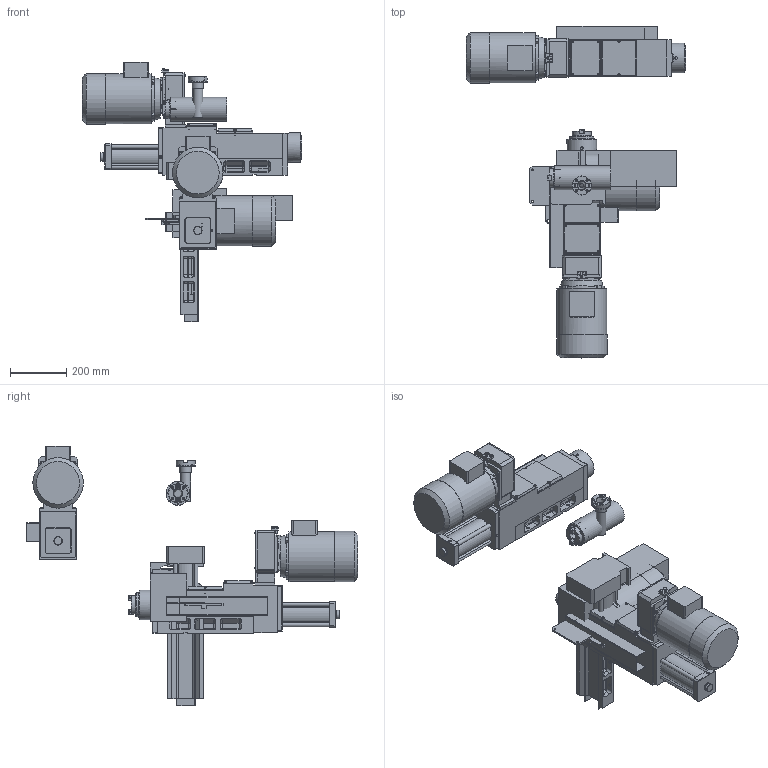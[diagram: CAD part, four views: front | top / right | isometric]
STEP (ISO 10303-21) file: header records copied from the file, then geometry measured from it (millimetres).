
FILE_DESCRIPTION( ( 'STEP AP203' ), '1' );
FILE_NAME( 'C:/Documents and Settings/Saverio/Desktop/disegni ironcad/unità serie 2/F220 (ex F230)/F 220_P.stp', '2013-12-12T14:31:39', ( ' ' ), ( ' ' ), 'XStep 1.0', ' ', ' ' );
FILE_SCHEMA( ( 'CONFIG_CONTROL_DESIGN' ) );
Length unit declared in the file: metre
Products named in the file (43): Assem1; Assem2; Assem3; 1; 2; 3; 4; 5; 6; 7; 8; 9; 10; 11; 12; 13; 14; 15; 16; 17; 18; 19; 20; 21; 22; 23; 24; 25; 26; 27; 28; 29; 30; 31; 32; 33; 34; 35; 36; 37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
Bounding box: 778 x 1176.73 x 919.21 mm (x, y, z)
Volume: 50551297.4 mm3; surface area: 4551174.5 mm2
Topology: 120 solids, 120 shells, 3240 faces, 7521 edges, 4557 vertices
Faces by surface type: plane 1827, cylinder 828, cone 366, bspline 114, sphere 60, torus 45
Full cylindrical faces by diameter (mm): 4.2 x24, 5 x27, 5.5 x21, 6 x12, 6.5 x24, 6.637 x15, 6.647 x12, 8.385 x3, 8.5 x48, 8.75 x18, 9.25 x3, 10 x6, 10.25 x6, 10.5 x6, 14 x3, 17.4 x3, 24 x3, 27.5 x3, 30 x3, 31.2 x3, 35 x3, 40 x3, 67 x3, 68 x3, 68.3 x3, 68.4 x3, 76 x3, 80 x3, 85 x6, 95 x9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
Entity records: 33012 total; most frequent: CARTESIAN_POINT 8153, DIRECTION 4762, ORIENTED_EDGE 4356, EDGE_CURVE 2178, AXIS2_PLACEMENT_3D 1722, VERTEX_POINT 1455, EDGE_LOOP 1395, LINE 1318
